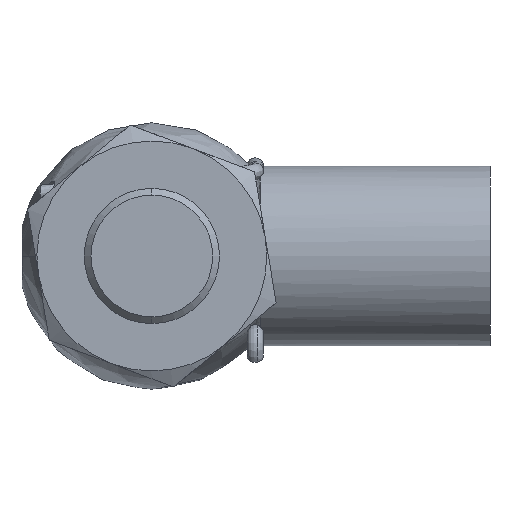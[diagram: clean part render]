
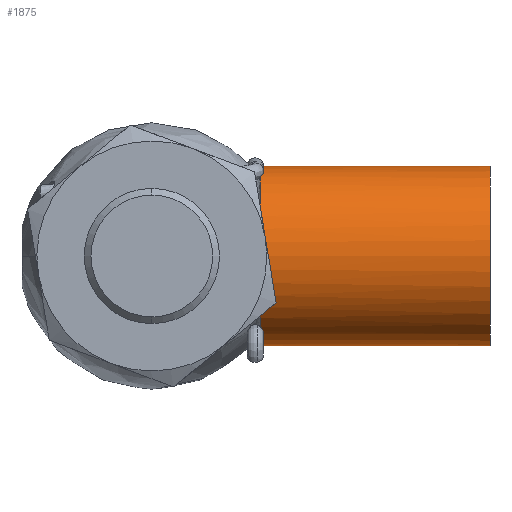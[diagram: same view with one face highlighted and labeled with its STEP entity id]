
A CAD part, front view. The second image highlights one B-rep face of the part: STEP entity #1875.
In plain terms, the highlighted cylindrical face has radius 6.65 mm (diameter 13.3 mm), a partial arc.
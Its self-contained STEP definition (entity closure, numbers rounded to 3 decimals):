
#80 = CARTESIAN_POINT ( 'NONE',  ( 13.725, 18.861, 33.486 ) ) ;
#177 = DIRECTION ( 'NONE',  ( 1., 0., 0. ) ) ;
#862 = CARTESIAN_POINT ( 'NONE',  ( 11.984, 18.861, 33.486 ) ) ;
#879 = CARTESIAN_POINT ( 'NONE',  ( 13.725, 18.861, 20.186 ) ) ;
#998 = CARTESIAN_POINT ( 'NONE',  ( 13.501, 12.211, 26.836 ) ) ;
#1401 = VERTEX_POINT ( 'NONE', #8704 ) ;
#1587 = CARTESIAN_POINT ( 'NONE',  ( 13.747, 16.728, 33.15 ) ) ;
#1620 = CARTESIAN_POINT ( 'NONE',  ( 13.725, 17.704, 20.261 ) ) ;
#1875 = ADVANCED_FACE ( 'NONE', ( #9421 ), #4360, .T. ) ;
#1935 = CIRCLE ( 'NONE', #8655, 6.65 ) ;
#1947 = CARTESIAN_POINT ( 'NONE',  ( 13.725, 15.4, 21.155 ) ) ;
#2118 = ORIENTED_EDGE ( 'NONE', *, *, #4693, .F. ) ;
#2365 = CARTESIAN_POINT ( 'NONE',  ( 13.725, 16.05, 20.802 ) ) ;
#2485 = DIRECTION ( 'NONE',  ( -1., 0., 0. ) ) ;
#2544 = VERTEX_POINT ( 'NONE', #9250 ) ;
#2665 = EDGE_CURVE ( 'NONE', #7022, #6112, #1935, .T. ) ;
#2681 = EDGE_CURVE ( 'NONE', #1401, #5370, #9690, .T. ) ;
#2744 = CARTESIAN_POINT ( 'NONE',  ( 13.611, 14.892, 21.498 ) ) ;
#3061 = CARTESIAN_POINT ( 'NONE',  ( 13.725, 17.994, 33.443 ) ) ;
#3093 = CARTESIAN_POINT ( 'NONE',  ( 13.726, 16.589, 20.579 ) ) ;
#3422 = ORIENTED_EDGE ( 'NONE', *, *, #7920, .T. ) ;
#3506 = EDGE_CURVE ( 'NONE', #8730, #7351, #9516, .T. ) ;
#3507 = EDGE_LOOP ( 'NONE', ( #5829, #2118, #9136, #8975, #8953, #7847, #6072, #5657, #3422 ) ) ;
#3508 = CARTESIAN_POINT ( 'NONE',  ( 13.67, 15.013, 21.409 ) ) ;
#3517 = DIRECTION ( 'NONE',  ( 0., -1., 0. ) ) ;
#3540 = CARTESIAN_POINT ( 'NONE',  ( 13.725, 15.267, 21.238 ) ) ;
#3674 = CARTESIAN_POINT ( 'NONE',  ( 13.726, 16.327, 32.984 ) ) ;
#3741 = CARTESIAN_POINT ( 'NONE',  ( 13.718, 16.217, 32.939 ) ) ;
#3858 = CARTESIAN_POINT ( 'NONE',  ( 13.725, 15.789, 20.93 ) ) ;
#3895 = CARTESIAN_POINT ( 'NONE',  ( 13.728, 18.427, 33.486 ) ) ;
#3930 = CARTESIAN_POINT ( 'NONE',  ( 13.725, 18.861, 33.486 ) ) ;
#4108 = VECTOR ( 'NONE', #177, 1000. ) ;
#4223 = CIRCLE ( 'NONE', #4746, 6.65 ) ;
#4360 = CYLINDRICAL_SURFACE ( 'NONE', #6871, 6.65 ) ;
#4466 = CARTESIAN_POINT ( 'NONE',  ( 13.619, 15.904, 32.794 ) ) ;
#4693 = EDGE_CURVE ( 'NONE', #2544, #8730, #7611, .T. ) ;
#4746 = AXIS2_PLACEMENT_3D ( 'NONE', #7151, #7053, #6359 ) ;
#5032 = CARTESIAN_POINT ( 'NONE',  ( 13.501, 18.861, 26.836 ) ) ;
#5225 = CARTESIAN_POINT ( 'NONE',  ( 13.695, 16.108, 32.89 ) ) ;
#5291 = DIRECTION ( 'NONE',  ( 0., 0., -1. ) ) ;
#5295 = VERTEX_POINT ( 'NONE', #8011 ) ;
#5311 = CARTESIAN_POINT ( 'NONE',  ( 13.735, 17.143, 33.275 ) ) ;
#5370 = VERTEX_POINT ( 'NONE', #5802 ) ;
#5657 = ORIENTED_EDGE ( 'NONE', *, *, #2681, .T. ) ;
#5702 = DIRECTION ( 'NONE',  ( 1., 0., 0. ) ) ;
#5802 = CARTESIAN_POINT ( 'NONE',  ( 30.484, 18.861, 20.186 ) ) ;
#5804 = CARTESIAN_POINT ( 'NONE',  ( 13.501, 14.803, 21.567 ) ) ;
#5829 = ORIENTED_EDGE ( 'NONE', *, *, #3506, .F. ) ;
#6072 = ORIENTED_EDGE ( 'NONE', *, *, #7208, .T. ) ;
#6112 = VERTEX_POINT ( 'NONE', #9700 ) ;
#6245 = B_SPLINE_CURVE_WITH_KNOTS ( 'NONE', 3,
 ( #9732, #8241, #4466, #5225, #3741, #3674 ),
 .UNSPECIFIED., .F., .F.,
 ( 4, 2, 4 ),
 ( 0., 0., 0.001 ),
 .UNSPECIFIED. ) ;
#6359 = DIRECTION ( 'NONE',  ( 0., -1., 0. ) ) ;
#6650 = CIRCLE ( 'NONE', #9593, 6.65 ) ;
#6667 = CARTESIAN_POINT ( 'NONE',  ( 30.484, 18.861, 33.486 ) ) ;
#6714 = EDGE_CURVE ( 'NONE', #6888, #2544, #6245, .T. ) ;
#6871 = AXIS2_PLACEMENT_3D ( 'NONE', #8166, #7476, #5291 ) ;
#6888 = VERTEX_POINT ( 'NONE', #7449 ) ;
#7022 = VERTEX_POINT ( 'NONE', #998 ) ;
#7053 = DIRECTION ( 'NONE',  ( 1., 0., 0. ) ) ;
#7151 = CARTESIAN_POINT ( 'NONE',  ( 13.501, 18.861, 26.836 ) ) ;
#7208 = EDGE_CURVE ( 'NONE', #5295, #1401, #9458, .T. ) ;
#7351 = VERTEX_POINT ( 'NONE', #6667 ) ;
#7449 = CARTESIAN_POINT ( 'NONE',  ( 13.501, 15.721, 32.698 ) ) ;
#7476 = DIRECTION ( 'NONE',  ( 1., 0., 0. ) ) ;
#7565 = CARTESIAN_POINT ( 'NONE',  ( 13.725, 18.276, 20.186 ) ) ;
#7611 = B_SPLINE_CURVE_WITH_KNOTS ( 'NONE', 3,
 ( #9157, #1587, #5311, #3061, #3895, #3930 ),
 .UNSPECIFIED., .F., .F.,
 ( 4, 2, 4 ),
 ( -0.003, -0.001, 0. ),
 .UNSPECIFIED. ) ;
#7791 = CARTESIAN_POINT ( 'NONE',  ( 30.484, 18.861, 26.836 ) ) ;
#7847 = ORIENTED_EDGE ( 'NONE', *, *, #8230, .T. ) ;
#7920 = EDGE_CURVE ( 'NONE', #5370, #7351, #6650, .T. ) ;
#7923 = VECTOR ( 'NONE', #5702, 1000. ) ;
#7944 = B_SPLINE_CURVE_WITH_KNOTS ( 'NONE', 3,
 ( #5804, #2744, #3508, #3540, #1947, #9530 ),
 .UNSPECIFIED., .F., .F.,
 ( 4, 2, 4 ),
 ( 0., 0., 0.001 ),
 .UNSPECIFIED. ) ;
#8011 = CARTESIAN_POINT ( 'NONE',  ( 13.725, 15.536, 21.077 ) ) ;
#8166 = CARTESIAN_POINT ( 'NONE',  ( 11.984, 18.861, 26.836 ) ) ;
#8230 = EDGE_CURVE ( 'NONE', #6112, #5295, #7944, .T. ) ;
#8241 = CARTESIAN_POINT ( 'NONE',  ( 13.567, 15.81, 32.745 ) ) ;
#8542 = DIRECTION ( 'NONE',  ( 0., 0., -1. ) ) ;
#8655 = AXIS2_PLACEMENT_3D ( 'NONE', #5032, #9411, #3517 ) ;
#8704 = CARTESIAN_POINT ( 'NONE',  ( 13.725, 18.861, 20.186 ) ) ;
#8730 = VERTEX_POINT ( 'NONE', #80 ) ;
#8953 = ORIENTED_EDGE ( 'NONE', *, *, #2665, .T. ) ;
#8975 = ORIENTED_EDGE ( 'NONE', *, *, #9020, .T. ) ;
#9015 = CARTESIAN_POINT ( 'NONE',  ( 13.725, 15.536, 21.077 ) ) ;
#9020 = EDGE_CURVE ( 'NONE', #6888, #7022, #4223, .T. ) ;
#9122 = CARTESIAN_POINT ( 'NONE',  ( 13.725, 16.867, 20.485 ) ) ;
#9136 = ORIENTED_EDGE ( 'NONE', *, *, #6714, .F. ) ;
#9157 = CARTESIAN_POINT ( 'NONE',  ( 13.726, 16.327, 32.984 ) ) ;
#9250 = CARTESIAN_POINT ( 'NONE',  ( 13.726, 16.327, 32.984 ) ) ;
#9411 = DIRECTION ( 'NONE',  ( 1., 0., 0. ) ) ;
#9421 = FACE_OUTER_BOUND ( 'NONE', #3507, .T. ) ;
#9447 = CARTESIAN_POINT ( 'NONE',  ( 11.984, 18.861, 20.186 ) ) ;
#9458 = B_SPLINE_CURVE_WITH_KNOTS ( 'NONE', 3,
 ( #9015, #3858, #2365, #3093, #9122, #1620, #7565, #879 ),
 .UNSPECIFIED., .F., .F.,
 ( 4, 2, 2, 4 ),
 ( -0.003, -0.003, -0.002, 0. ),
 .UNSPECIFIED. ) ;
#9516 = LINE ( 'NONE', #862, #4108 ) ;
#9530 = CARTESIAN_POINT ( 'NONE',  ( 13.725, 15.536, 21.077 ) ) ;
#9593 = AXIS2_PLACEMENT_3D ( 'NONE', #7791, #2485, #8542 ) ;
#9690 = LINE ( 'NONE', #9447, #7923 ) ;
#9700 = CARTESIAN_POINT ( 'NONE',  ( 13.501, 14.803, 21.567 ) ) ;
#9732 = CARTESIAN_POINT ( 'NONE',  ( 13.501, 15.721, 32.698 ) ) ;
